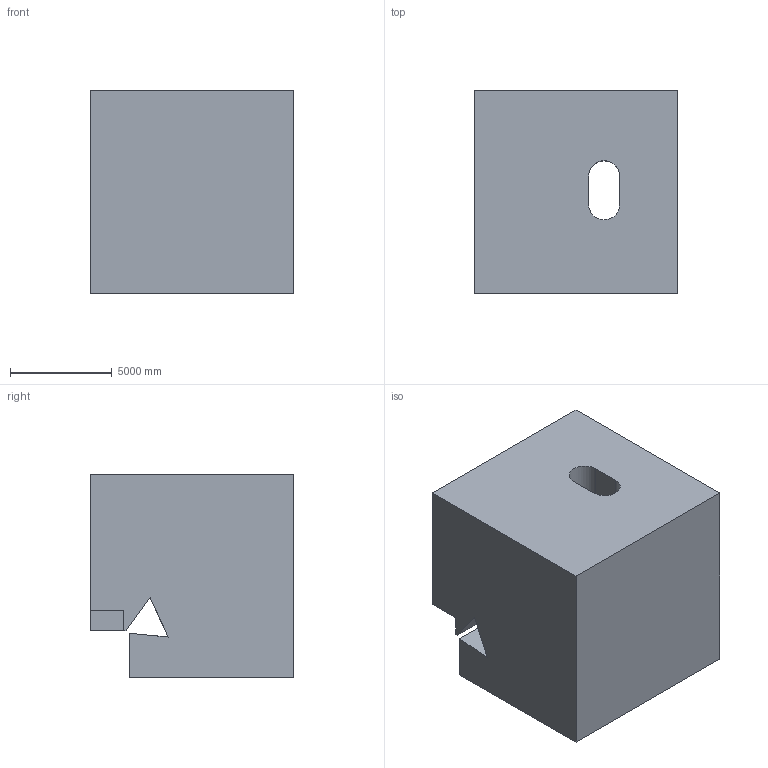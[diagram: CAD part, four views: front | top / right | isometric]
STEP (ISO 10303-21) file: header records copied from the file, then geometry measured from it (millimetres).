
FILE_DESCRIPTION (( 'STEP AP203' ), '1' );
FILE_NAME ('434.STEP', '2022-07-29T11:15:59', ( 'user' ), ( '' ), 'SwSTEP 2.0', 'SolidWorks 2021', '' );
FILE_SCHEMA (( 'CONFIG_CONTROL_DESIGN' ));
Length unit declared in the file: centimetre
Products named in the file (1): 434
Bounding box: 10000 x 10000 x 10000 mm (x, y, z)
Volume: 868229472113.3 mm3; surface area: 751238914.5 mm2
Topology: 1 solids, 1 shells, 25 faces, 69 edges, 46 vertices
Faces by surface type: plane 23, cylinder 2
Entity records: 872 total; most frequent: CARTESIAN_POINT 147, ORIENTED_EDGE 138, DIRECTION 123, EDGE_CURVE 69, LINE 63, VECTOR 63, VERTEX_POINT 46, AXIS2_PLACEMENT_3D 30
